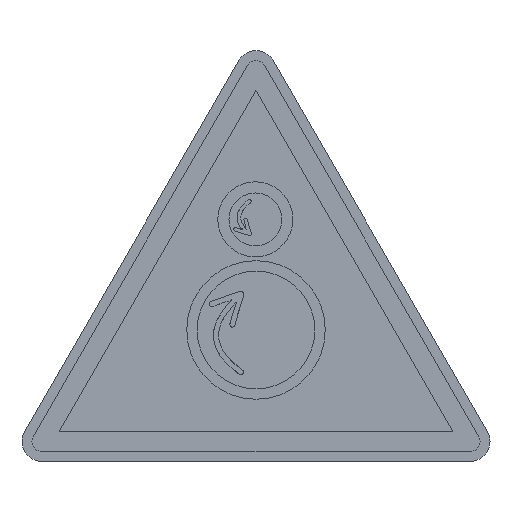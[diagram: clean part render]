
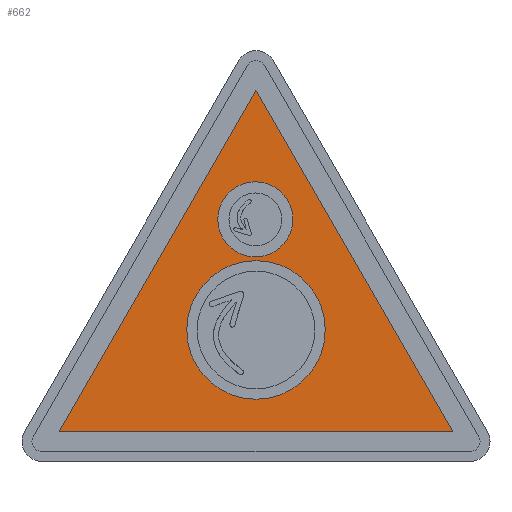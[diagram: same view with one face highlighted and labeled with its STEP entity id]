
A CAD part, top view. The second image highlights one B-rep face of the part: STEP entity #662.
In plain terms, the highlighted planar face has unit normal (0, 0, 1).
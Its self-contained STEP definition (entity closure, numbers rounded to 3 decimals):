
#35 = ORIENTED_EDGE ( 'NONE', *, *, #1820, .F. ) ;
#46 = DIRECTION ( 'NONE',  ( 0., 0., 1. ) ) ;
#79 = CARTESIAN_POINT ( 'NONE',  ( 0., 13.21, 0.2 ) ) ;
#96 = VERTEX_POINT ( 'NONE', #445 ) ;
#128 = DIRECTION ( 'NONE',  ( -0.5, 0.866, 0. ) ) ;
#175 = EDGE_LOOP ( 'NONE', ( #1800, #1697 ) ) ;
#202 = DIRECTION ( 'NONE',  ( 1., 0., 0. ) ) ;
#228 = CARTESIAN_POINT ( 'NONE',  ( -19.804, 3., 0.2 ) ) ;
#242 = AXIS2_PLACEMENT_3D ( 'NONE', #1387, #1666, #322 ) ;
#309 = LINE ( 'NONE', #485, #1492 ) ;
#322 = DIRECTION ( 'NONE',  ( 1., 0., 0. ) ) ;
#344 = CIRCLE ( 'NONE', #242, 3.78 ) ;
#428 = VERTEX_POINT ( 'NONE', #862 ) ;
#436 = EDGE_CURVE ( 'NONE', #1622, #1000, #1644, .T. ) ;
#445 = CARTESIAN_POINT ( 'NONE',  ( 0., 37.301, 0.2 ) ) ;
#466 = CARTESIAN_POINT ( 'NONE',  ( 19.804, 3., 0.2 ) ) ;
#483 = DIRECTION ( 'NONE',  ( 1., 0., 0. ) ) ;
#485 = CARTESIAN_POINT ( 'NONE',  ( 0., 37.301, 0.2 ) ) ;
#505 = CARTESIAN_POINT ( 'NONE',  ( -19.804, 3., 0.2 ) ) ;
#510 = DIRECTION ( 'NONE',  ( 1., 0., 0. ) ) ;
#516 = ORIENTED_EDGE ( 'NONE', *, *, #436, .F. ) ;
#543 = DIRECTION ( 'NONE',  ( 0., 0., 1. ) ) ;
#562 = CARTESIAN_POINT ( 'NONE',  ( 19.804, 3., 0.2 ) ) ;
#604 = CARTESIAN_POINT ( 'NONE',  ( 0., 13.21, 0.2 ) ) ;
#617 = DIRECTION ( 'NONE',  ( 0., 0., 1. ) ) ;
#662 = ADVANCED_FACE ( 'NONE', ( #1957, #1808, #1878 ), #1409, .T. ) ;
#729 = ORIENTED_EDGE ( 'NONE', *, *, #1623, .T. ) ;
#820 = DIRECTION ( 'NONE',  ( 0., 0., 1. ) ) ;
#849 = EDGE_CURVE ( 'NONE', #1758, #428, #1273, .T. ) ;
#862 = CARTESIAN_POINT ( 'NONE',  ( 6.966, 13.21, 0.2 ) ) ;
#881 = ORIENTED_EDGE ( 'NONE', *, *, #1678, .T. ) ;
#901 = AXIS2_PLACEMENT_3D ( 'NONE', #79, #46, #202 ) ;
#911 = EDGE_LOOP ( 'NONE', ( #516, #35 ) ) ;
#934 = AXIS2_PLACEMENT_3D ( 'NONE', #1750, #820, #510 ) ;
#963 = EDGE_CURVE ( 'NONE', #428, #1758, #1084, .T. ) ;
#991 = DIRECTION ( 'NONE',  ( 1., 0., 0. ) ) ;
#1000 = VERTEX_POINT ( 'NONE', #1879 ) ;
#1084 = CIRCLE ( 'NONE', #901, 6.966 ) ;
#1091 = ORIENTED_EDGE ( 'NONE', *, *, #1842, .T. ) ;
#1112 = AXIS2_PLACEMENT_3D ( 'NONE', #1924, #543, #991 ) ;
#1114 = LINE ( 'NONE', #228, #1170 ) ;
#1170 = VECTOR ( 'NONE', #1593, 1000. ) ;
#1273 = CIRCLE ( 'NONE', #1784, 6.966 ) ;
#1291 = CARTESIAN_POINT ( 'NONE',  ( -3.848, 24.337, 0.2 ) ) ;
#1292 = VERTEX_POINT ( 'NONE', #466 ) ;
#1314 = LINE ( 'NONE', #562, #1938 ) ;
#1387 = CARTESIAN_POINT ( 'NONE',  ( -0.069, 24.337, 0.2 ) ) ;
#1409 = PLANE ( 'NONE',  #934 ) ;
#1492 = VECTOR ( 'NONE', #1966, 1000. ) ;
#1593 = DIRECTION ( 'NONE',  ( 1., 0., 0. ) ) ;
#1622 = VERTEX_POINT ( 'NONE', #1291 ) ;
#1623 = EDGE_CURVE ( 'NONE', #1790, #1292, #1114, .T. ) ;
#1638 = CARTESIAN_POINT ( 'NONE',  ( -6.966, 13.21, 0.2 ) ) ;
#1644 = CIRCLE ( 'NONE', #1112, 3.78 ) ;
#1666 = DIRECTION ( 'NONE',  ( 0., 0., 1. ) ) ;
#1678 = EDGE_CURVE ( 'NONE', #1292, #96, #1314, .T. ) ;
#1697 = ORIENTED_EDGE ( 'NONE', *, *, #963, .F. ) ;
#1750 = CARTESIAN_POINT ( 'NONE',  ( 0., 39.301, 0.2 ) ) ;
#1758 = VERTEX_POINT ( 'NONE', #1638 ) ;
#1784 = AXIS2_PLACEMENT_3D ( 'NONE', #604, #617, #483 ) ;
#1790 = VERTEX_POINT ( 'NONE', #505 ) ;
#1800 = ORIENTED_EDGE ( 'NONE', *, *, #849, .F. ) ;
#1808 = FACE_BOUND ( 'NONE', #175, .T. ) ;
#1820 = EDGE_CURVE ( 'NONE', #1000, #1622, #344, .T. ) ;
#1842 = EDGE_CURVE ( 'NONE', #96, #1790, #309, .T. ) ;
#1878 = FACE_OUTER_BOUND ( 'NONE', #1889, .T. ) ;
#1879 = CARTESIAN_POINT ( 'NONE',  ( 3.711, 24.337, 0.2 ) ) ;
#1889 = EDGE_LOOP ( 'NONE', ( #1091, #729, #881 ) ) ;
#1924 = CARTESIAN_POINT ( 'NONE',  ( -0.069, 24.337, 0.2 ) ) ;
#1938 = VECTOR ( 'NONE', #128, 1000. ) ;
#1957 = FACE_BOUND ( 'NONE', #911, .T. ) ;
#1966 = DIRECTION ( 'NONE',  ( -0.5, -0.866, 0. ) ) ;
